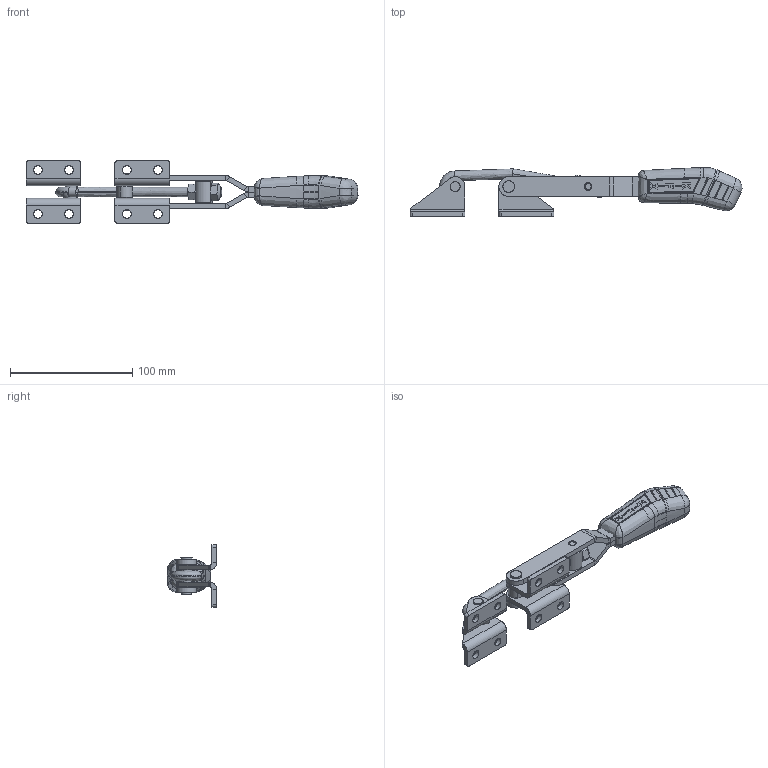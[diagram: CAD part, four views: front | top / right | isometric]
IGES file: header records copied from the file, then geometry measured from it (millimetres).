
Start section: SolidWorks IGES file using analytic representation for surfaces
Global section: file name: C:\Projetos\Grampos\KF-453\KF-453 D\KF-453 D.IGS; native system: SolidWorks 2013; preprocessor: SolidWorks 2013; author: Ricardo; date: 140821.152020; units: millimetre
Bounding box: 271.74 x 40.18 x 51 mm (x, y, z)
Surface area: 51078 mm2 (no closed solid volume)
Topology: 0 solids, 0 shells, 577 faces, 6331 edges, 6323 vertices
Faces by surface type: bspline 370, revolution 207
